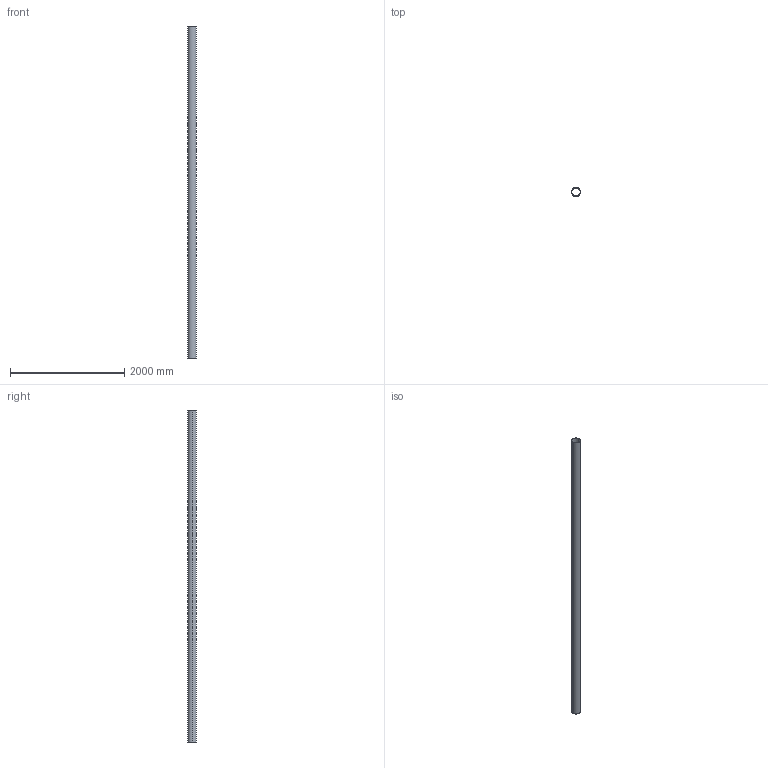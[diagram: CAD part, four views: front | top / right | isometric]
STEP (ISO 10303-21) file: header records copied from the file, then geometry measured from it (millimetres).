
FILE_DESCRIPTION((''),'2;1');
FILE_NAME('2009900000','2017-05-15T',('Administrator'),(''),'PRO/ENGINEER BY PARAMETRIC TECHNOLOGY CORPORATION, 2009360','PRO/ENGINEER BY PARAMETRIC TECHNOLOGY CORPORATION, 2009360','');
FILE_SCHEMA(('AUTOMOTIVE_DESIGN_CC2 { 1 2 10303 214 -1 1 5 2 }'));
Length unit declared in the file: millimetre
Products named in the file (1): 2009900000
Bounding box: 153.5 x 153.5 x 5800 mm (x, y, z)
Volume: 8226888.7 mm3; surface area: 5487429.3 mm2
Topology: 1 solids, 1 shells, 6 faces, 12 edges, 8 vertices
Faces by surface type: cylinder 4, plane 2
Entity records: 235 total; most frequent: DIRECTION 32, CARTESIAN_POINT 26, ORIENTED_EDGE 24, AXIS2_PLACEMENT_3D 14, PRESENTATION_STYLE_ASSIGNMENT 13, STYLED_ITEM 13, CURVE_STYLE 12, COLOUR_RGB 12
